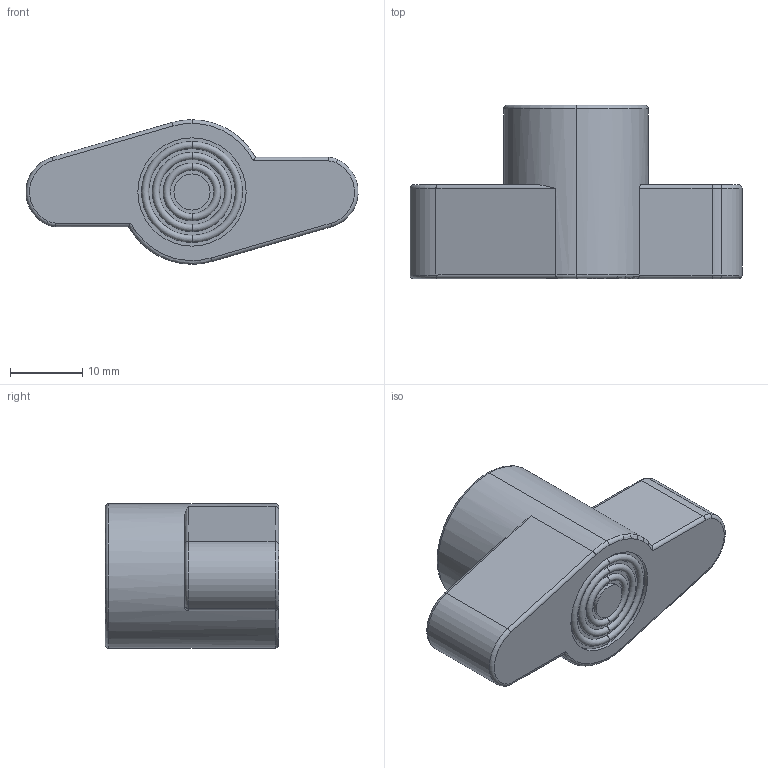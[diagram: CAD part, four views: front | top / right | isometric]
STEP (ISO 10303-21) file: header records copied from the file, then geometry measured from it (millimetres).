
FILE_DESCRIPTION (( 'STEP AP203' ), '1' );
FILE_NAME ('AP-2062-45-M8.STEP', '2015-11-23T05:27:13', ( '' ), ( '' ), 'SwSTEP 2.0', 'SolidWorks 2014', '' );
FILE_SCHEMA (( 'CONFIG_CONTROL_DESIGN' ));
Length unit declared in the file: millimetre
Products named in the file (1): AP-2062-45-M8
Bounding box: 45.97 x 24 x 20 mm (x, y, z)
Volume: 10506.6 mm3; surface area: 4927.7 mm2
Topology: 2 solids, 2 shells, 61 faces, 134 edges, 82 vertices
Faces by surface type: cylinder 24, torus 19, plane 16, cone 2
Entity records: 1789 total; most frequent: DIRECTION 336, CARTESIAN_POINT 310, ORIENTED_EDGE 264, AXIS2_PLACEMENT_3D 148, EDGE_CURVE 132, CIRCLE 86, VERTEX_POINT 82, EDGE_LOOP 70
